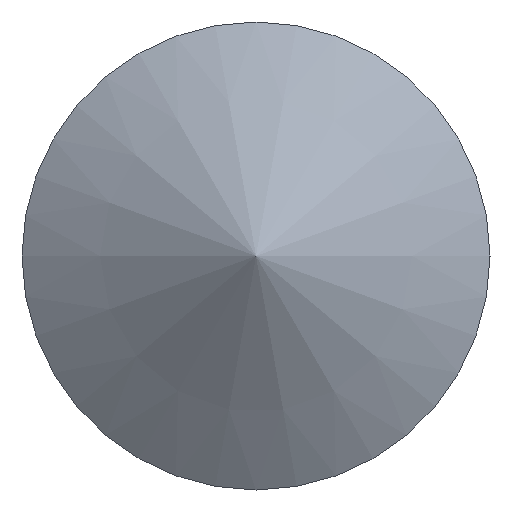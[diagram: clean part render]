
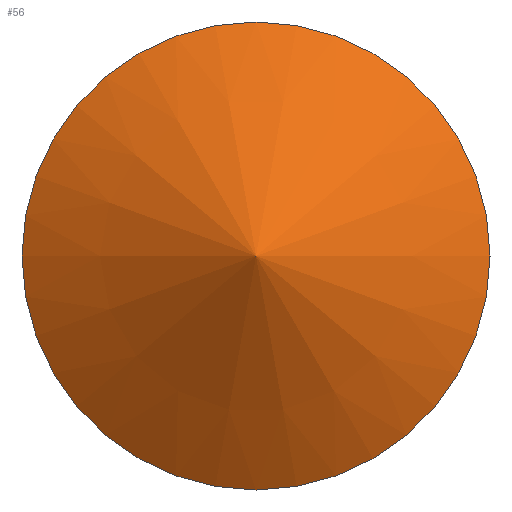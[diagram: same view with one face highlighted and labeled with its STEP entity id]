
A CAD part, left-side view. The second image highlights one B-rep face of the part: STEP entity #56.
In plain terms, the highlighted conical face has half-angle 59 degrees and reference radius 1.25 mm.
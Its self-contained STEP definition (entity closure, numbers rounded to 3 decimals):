
#16=LINE('',#115,#18);
#18=VECTOR('',#99,1.25);
#20=CONICAL_SURFACE('',#81,1.25,1.03);
#22=FACE_OUTER_BOUND('',#25,.T.);
#25=EDGE_LOOP('',(#44,#45,#46,#47));
#29=CIRCLE('',#82,2.5);
#30=CIRCLE('',#83,2.5);
#33=VERTEX_POINT('',#110);
#34=VERTEX_POINT('',#111);
#35=VERTEX_POINT('',#114);
#38=EDGE_CURVE('',#33,#34,#29,.T.);
#39=EDGE_CURVE('',#34,#33,#30,.T.);
#40=EDGE_CURVE('',#34,#35,#16,.T.);
#44=ORIENTED_EDGE('',*,*,#38,.F.);
#45=ORIENTED_EDGE('',*,*,#39,.F.);
#46=ORIENTED_EDGE('',*,*,#40,.T.);
#47=ORIENTED_EDGE('',*,*,#40,.F.);
#56=ADVANCED_FACE('',(#22),#20,.T.);
#81=AXIS2_PLACEMENT_3D('',#109,#93,#94);
#82=AXIS2_PLACEMENT_3D('',#112,#95,#96);
#83=AXIS2_PLACEMENT_3D('',#113,#97,#98);
#93=DIRECTION('center_axis',(1.,0.,0.));
#94=DIRECTION('ref_axis',(0.,1.,0.));
#95=DIRECTION('center_axis',(1.,0.,0.));
#96=DIRECTION('ref_axis',(0.,0.,-1.));
#97=DIRECTION('center_axis',(1.,0.,0.));
#98=DIRECTION('ref_axis',(0.,0.,-1.));
#99=DIRECTION('',(-0.515,0.857,0.));
#109=CARTESIAN_POINT('Origin',(-12.751,0.,
0.));
#110=CARTESIAN_POINT('',(-12.,2.5,0.));
#111=CARTESIAN_POINT('',(-12.,-2.5,0.));
#112=CARTESIAN_POINT('Origin',(-12.,0.,0.));
#113=CARTESIAN_POINT('Origin',(-12.,0.,0.));
#114=CARTESIAN_POINT('',(-13.502,0.,0.));
#115=CARTESIAN_POINT('',(-12.751,-1.25,0.));
